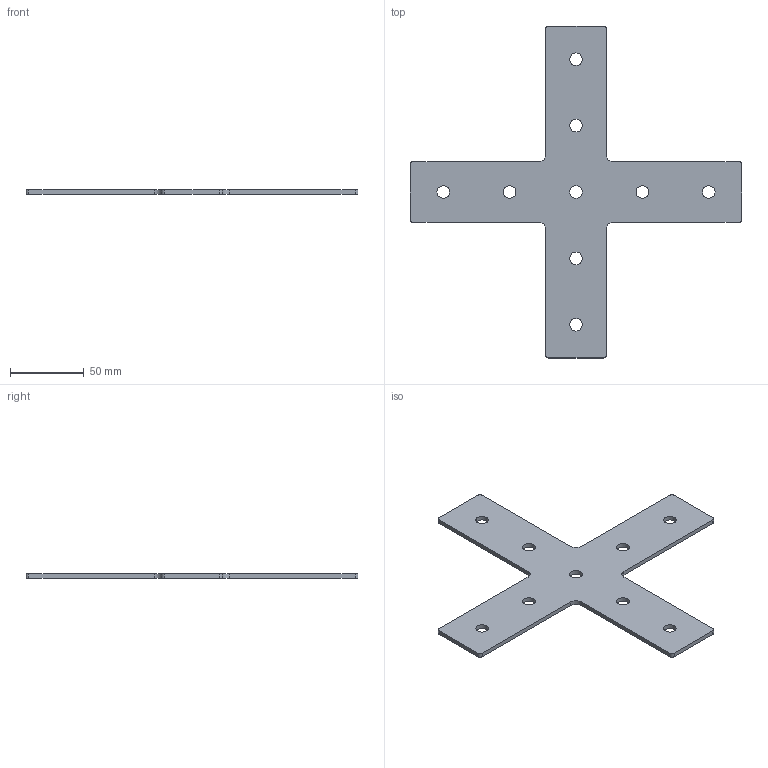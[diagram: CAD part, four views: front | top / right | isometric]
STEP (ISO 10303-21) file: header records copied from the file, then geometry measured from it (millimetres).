
FILE_DESCRIPTION(/* description */ ('Unknown'),/* implementation_level */ '2;1');
FILE_NAME(/* name */ 'CJP4545C',/* time_stamp */ '2018-12-06T16:15:50+00:00',/* author */ ('Unknown'),/* organization */ ('Unknown'),/* preprocessor_version */ 'ST-DEVELOPER v16.7',/* originating_system */ 'DEX',/* authorisation */ $);
FILE_SCHEMA (('AUTOMOTIVE_DESIGN {1 0 10303 214 3 1 1}'));
Length unit declared in the file: millimetre
Products named in the file (1): CJP4545C
Bounding box: 225 x 225 x 3 mm (x, y, z)
Volume: 48818.7 mm3; surface area: 35920.4 mm2
Topology: 1 solids, 1 shells, 35 faces, 99 edges, 66 vertices
Faces by surface type: cylinder 21, plane 14
Full cylindrical faces by diameter (mm): 8.5 x9
Entity records: 1176 total; most frequent: DIRECTION 204, CARTESIAN_POINT 192, ORIENTED_EDGE 180, EDGE_CURVE 90, AXIS2_PLACEMENT_3D 78, VERTEX_POINT 66, EDGE_LOOP 62, FACE_BOUND 62
